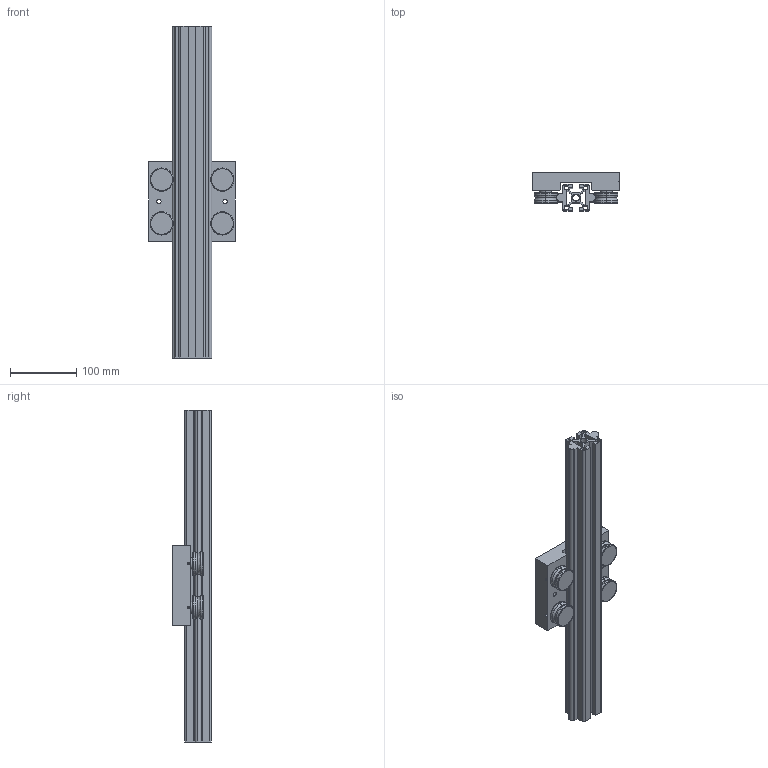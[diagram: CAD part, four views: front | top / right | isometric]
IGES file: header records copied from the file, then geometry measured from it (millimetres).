
Start section: SolidWorks IGES file using analytic representation for surfaces
Bounding box: 130 x 58 x 500 mm (x, y, z)
Surface area: 320744.5 mm2 (no closed solid volume)
Topology: 0 solids, 0 shells, 360 faces, 5374 edges, 5374 vertices
Faces by surface type: bspline 185, revolution 175
